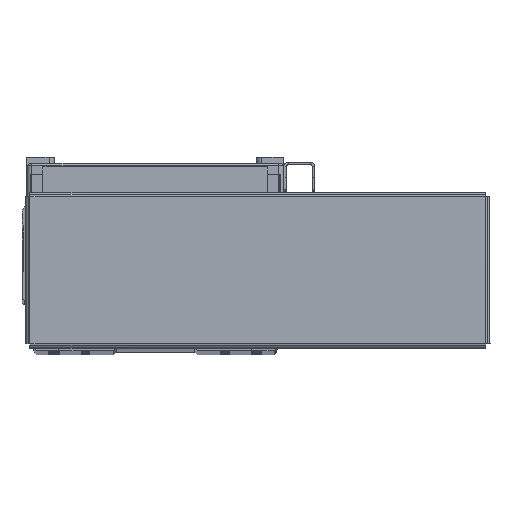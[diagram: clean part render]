
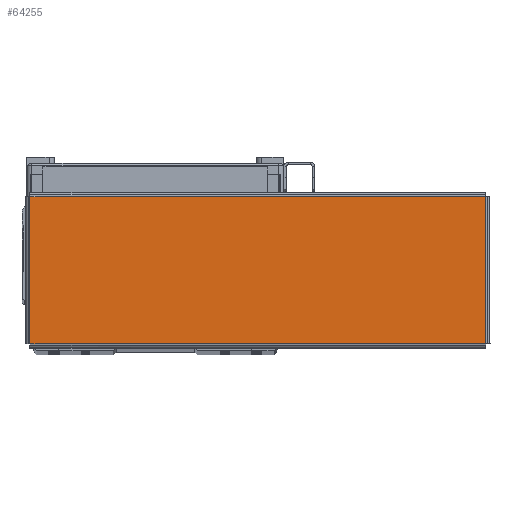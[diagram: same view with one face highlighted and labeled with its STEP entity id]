
A CAD part, top view. The second image highlights one B-rep face of the part: STEP entity #64255.
In plain terms, the highlighted planar face has unit normal (0, 0, 1) as drawn and (0, -1, 0) by its records, which use the part's own axes.
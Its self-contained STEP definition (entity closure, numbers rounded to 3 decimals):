
#3599 = FACE_OUTER_BOUND ( 'NONE', #24470, .T. ) ;
#14430 = CARTESIAN_POINT ( 'NONE',  ( -92.293, -1., -29.763 ) ) ;
#14500 = DIRECTION ( 'NONE',  ( 1., 0., 0. ) ) ;
#14555 = CARTESIAN_POINT ( 'NONE',  ( 92.263, -1., -29.793 ) ) ;
#14565 = DIRECTION ( 'NONE',  ( 0., 0., -1. ) ) ;
#14571 = CARTESIAN_POINT ( 'NONE',  ( -92.263, -1., 29.793 ) ) ;
#14580 = DIRECTION ( 'NONE',  ( 0., 0., 1. ) ) ;
#14803 = CARTESIAN_POINT ( 'NONE',  ( 92.293, -1., 29.763 ) ) ;
#14811 = DIRECTION ( 'NONE',  ( -1., 0., 0. ) ) ;
#16645 = EDGE_CURVE ( 'NONE', #44911, #45028, #36397, .T. ) ;
#16723 = EDGE_CURVE ( 'NONE', #44935, #44911, #36519, .T. ) ;
#16739 = EDGE_CURVE ( 'NONE', #45028, #45044, #36523, .T. ) ;
#16831 = EDGE_CURVE ( 'NONE', #45044, #44935, #36794, .T. ) ;
#22363 = ORIENTED_EDGE ( 'NONE', *, *, #16831, .T. ) ;
#22367 = ORIENTED_EDGE ( 'NONE', *, *, #16723, .T. ) ;
#22449 = ORIENTED_EDGE ( 'NONE', *, *, #16645, .T. ) ;
#22455 = ORIENTED_EDGE ( 'NONE', *, *, #16739, .T. ) ;
#24470 = EDGE_LOOP ( 'NONE', ( #22449, #22455, #22363, #22367 ) ) ;
#33747 = CARTESIAN_POINT ( 'NONE',  ( -92.263, -1., -29.763 ) ) ;
#33797 = CARTESIAN_POINT ( 'NONE',  ( -92.263, -1., 29.763 ) ) ;
#33812 = CARTESIAN_POINT ( 'NONE',  ( 92.263, -1., 29.763 ) ) ;
#33837 = CARTESIAN_POINT ( 'NONE',  ( 92.263, -1., -29.763 ) ) ;
#36397 = LINE ( 'NONE', #14430, #36399 ) ;
#36399 = VECTOR ( 'NONE', #14500, 1000. ) ;
#36519 = LINE ( 'NONE', #14571, #36589 ) ;
#36523 = LINE ( 'NONE', #14555, #36537 ) ;
#36537 = VECTOR ( 'NONE', #14580, 1000. ) ;
#36589 = VECTOR ( 'NONE', #14565, 1000. ) ;
#36794 = LINE ( 'NONE', #14803, #36800 ) ;
#36800 = VECTOR ( 'NONE', #14811, 1000. ) ;
#40704 = PLANE ( 'NONE',  #44766 ) ;
#40707 = DIRECTION ( 'NONE',  ( 0., 1., 0. ) ) ;
#40732 = DIRECTION ( 'NONE',  ( 0., 0., 1. ) ) ;
#40737 = CARTESIAN_POINT ( 'NONE',  ( 0., -1., 0. ) ) ;
#44766 = AXIS2_PLACEMENT_3D ( 'NONE', #40737, #40707, #40732 ) ;
#44911 = VERTEX_POINT ( 'NONE', #33747 ) ;
#44935 = VERTEX_POINT ( 'NONE', #33797 ) ;
#45028 = VERTEX_POINT ( 'NONE', #33837 ) ;
#45044 = VERTEX_POINT ( 'NONE', #33812 ) ;
#64255 = ADVANCED_FACE ( 'NONE', ( #3599 ), #40704, .F. ) ;
